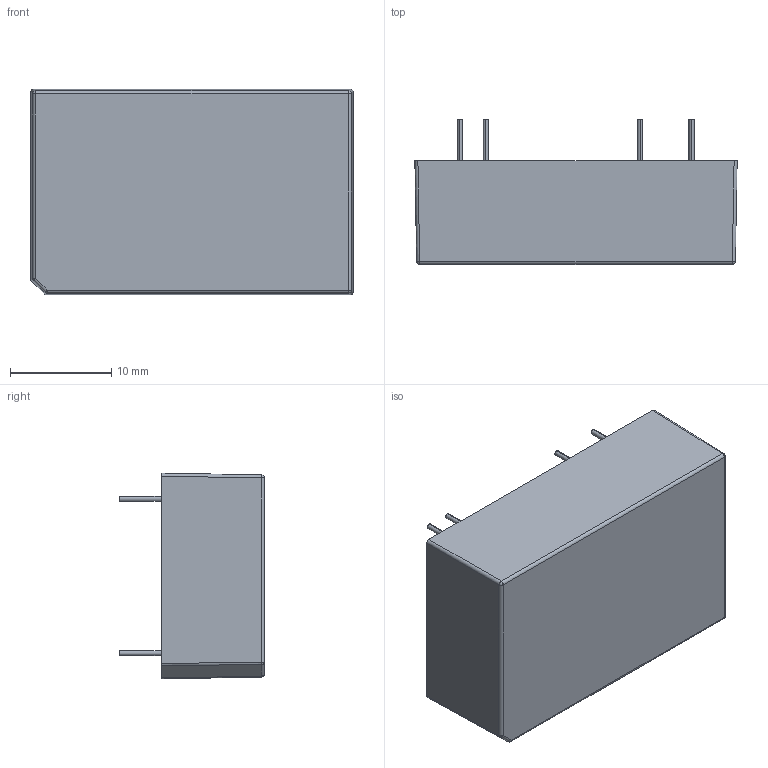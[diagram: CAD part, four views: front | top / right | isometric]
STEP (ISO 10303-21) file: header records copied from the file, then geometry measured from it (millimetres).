
FILE_DESCRIPTION (( 'STEP AP214' ), '1' );
FILE_NAME ('ten6win(-hi)-single.stp', '2014-03-07T10:44:53', ( '' ), ( '' ), 'SwSTEP 2.0', 'SolidWorks 2013', '' );
FILE_SCHEMA (( 'AUTOMOTIVE_DESIGN' ));
Length unit declared in the file: millimetre
Products named in the file (1): ten6win(-hi)-single
Bounding box: 31.8 x 14.3 x 20.3 mm (x, y, z)
Volume: 6483.8 mm3; surface area: 2347.8 mm2
Topology: 1 solids, 1 shells, 180 faces, 428 edges, 277 vertices
Faces by surface type: plane 79, cylinder 58, bspline 38, sphere 5
Entity records: 8812 total; most frequent: CARTESIAN_POINT 2822, ORIENTED_EDGE 846, DIRECTION 739, EDGE_CURVE 423, VERTEX_POINT 277, AXIS2_PLACEMENT_3D 254, LINE 231, VECTOR 231
